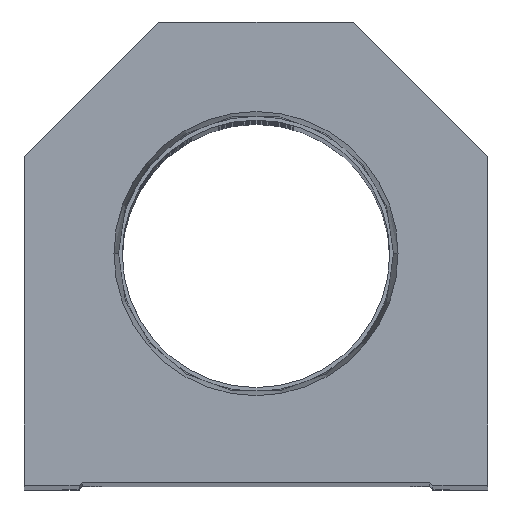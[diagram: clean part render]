
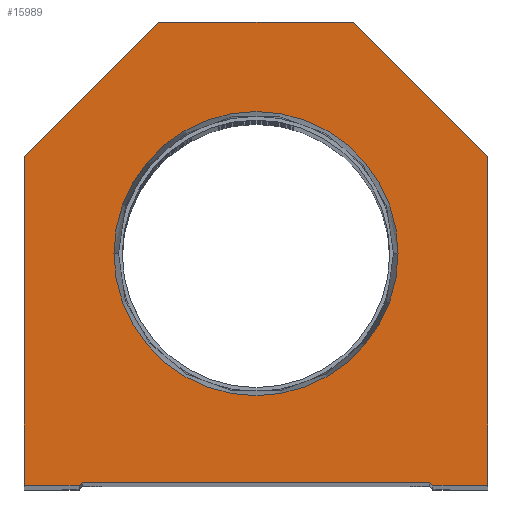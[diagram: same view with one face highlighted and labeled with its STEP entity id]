
A CAD part, top view. The second image highlights one B-rep face of the part: STEP entity #15989.
In plain terms, the highlighted planar face has unit normal (0, 0, 1).
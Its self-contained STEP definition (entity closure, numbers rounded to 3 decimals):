
#88 = EDGE_CURVE ( 'NONE', #16437, #2342, #13099, .T. ) ;
#244 = LINE ( 'NONE', #9971, #14769 ) ;
#366 = CARTESIAN_POINT ( 'NONE',  ( -23.374, 38.1, 0. ) ) ;
#378 = AXIS2_PLACEMENT_3D ( 'NONE', #7728, #14255, #14462 ) ;
#756 = DIRECTION ( 'NONE',  ( -1., 0., 0. ) ) ;
#809 = CARTESIAN_POINT ( 'NONE',  ( -28.6, 0., 0. ) ) ;
#1024 = DIRECTION ( 'NONE',  ( 1., 0., 0. ) ) ;
#1512 = CARTESIAN_POINT ( 'NONE',  ( 16., 76.2, 0. ) ) ;
#1669 = CARTESIAN_POINT ( 'NONE',  ( -38.1, 54.1, 0. ) ) ;
#1821 = ORIENTED_EDGE ( 'NONE', *, *, #18020, .F. ) ;
#1868 = EDGE_CURVE ( 'NONE', #3797, #20545, #12434, .T. ) ;
#1920 = VERTEX_POINT ( 'NONE', #1512 ) ;
#2342 = VERTEX_POINT ( 'NONE', #18665 ) ;
#2495 = VECTOR ( 'NONE', #756, 1000. ) ;
#2709 = DIRECTION ( 'NONE',  ( -0.707, 0.707, 0. ) ) ;
#2839 = VECTOR ( 'NONE', #20981, 1000. ) ;
#3064 = CARTESIAN_POINT ( 'NONE',  ( 0., 38.1, 0. ) ) ;
#3115 = FACE_OUTER_BOUND ( 'NONE', #13350, .T. ) ;
#3262 = EDGE_LOOP ( 'NONE', ( #9303, #1821 ) ) ;
#3559 = VECTOR ( 'NONE', #19797, 1000. ) ;
#3797 = VERTEX_POINT ( 'NONE', #7653 ) ;
#4383 = VECTOR ( 'NONE', #10370, 1000. ) ;
#4610 = VECTOR ( 'NONE', #1024, 1000. ) ;
#5192 = CARTESIAN_POINT ( 'NONE',  ( 0., 0., 0. ) ) ;
#5195 = DIRECTION ( 'NONE',  ( 0., 1., 0. ) ) ;
#5711 = LINE ( 'NONE', #12324, #2495 ) ;
#5868 = CARTESIAN_POINT ( 'NONE',  ( 23.374, 38.1, 0. ) ) ;
#5930 = DIRECTION ( 'NONE',  ( 0., 0., 1. ) ) ;
#6015 = CARTESIAN_POINT ( 'NONE',  ( 38.1, 54.1, 0. ) ) ;
#6359 = CIRCLE ( 'NONE', #378, 23.374 ) ;
#6616 = LINE ( 'NONE', #1669, #14793 ) ;
#6689 = AXIS2_PLACEMENT_3D ( 'NONE', #3064, #5930, #9464 ) ;
#6942 = DIRECTION ( 'NONE',  ( -0.707, -0.707, 0. ) ) ;
#6958 = CARTESIAN_POINT ( 'NONE',  ( 38.1, 0., 0. ) ) ;
#7070 = VERTEX_POINT ( 'NONE', #9006 ) ;
#7254 = EDGE_CURVE ( 'NONE', #2342, #10910, #20848, .T. ) ;
#7283 = CARTESIAN_POINT ( 'NONE',  ( -28.6, 0.5, 0. ) ) ;
#7545 = VERTEX_POINT ( 'NONE', #14644 ) ;
#7653 = CARTESIAN_POINT ( 'NONE',  ( -38.1, 54.1, 0. ) ) ;
#7728 = CARTESIAN_POINT ( 'NONE',  ( 0., 38.1, 0. ) ) ;
#7907 = ORIENTED_EDGE ( 'NONE', *, *, #7254, .T. ) ;
#8575 = EDGE_CURVE ( 'NONE', #12805, #1920, #14304, .T. ) ;
#8974 = EDGE_CURVE ( 'NONE', #7070, #3797, #6616, .T. ) ;
#8991 = ORIENTED_EDGE ( 'NONE', *, *, #88, .T. ) ;
#9006 = CARTESIAN_POINT ( 'NONE',  ( -16., 76.2, 0. ) ) ;
#9303 = ORIENTED_EDGE ( 'NONE', *, *, #19765, .F. ) ;
#9464 = DIRECTION ( 'NONE',  ( 1., 0., 0. ) ) ;
#9712 = EDGE_CURVE ( 'NONE', #14030, #7545, #16228, .T. ) ;
#9795 = CARTESIAN_POINT ( 'NONE',  ( 38.1, 54.1, 0. ) ) ;
#9848 = PLANE ( 'NONE',  #11483 ) ;
#9882 = EDGE_CURVE ( 'NONE', #1920, #7070, #5711, .T. ) ;
#9971 = CARTESIAN_POINT ( 'NONE',  ( 14.55, 14.55, 0. ) ) ;
#10018 = ORIENTED_EDGE ( 'NONE', *, *, #9712, .T. ) ;
#10370 = DIRECTION ( 'NONE',  ( 1., 0., 0. ) ) ;
#10374 = ORIENTED_EDGE ( 'NONE', *, *, #8974, .T. ) ;
#10602 = EDGE_CURVE ( 'NONE', #20545, #16437, #15914, .T. ) ;
#10780 = ORIENTED_EDGE ( 'NONE', *, *, #9882, .T. ) ;
#10910 = VERTEX_POINT ( 'NONE', #20012 ) ;
#10995 = CARTESIAN_POINT ( 'NONE',  ( -38.1, 0., 0. ) ) ;
#11440 = CARTESIAN_POINT ( 'NONE',  ( -38.1, 0., 0. ) ) ;
#11483 = AXIS2_PLACEMENT_3D ( 'NONE', #5192, #11929, #16984 ) ;
#11612 = VECTOR ( 'NONE', #5195, 1000. ) ;
#11716 = FACE_BOUND ( 'NONE', #3262, .T. ) ;
#11929 = DIRECTION ( 'NONE',  ( 0., 0., 1. ) ) ;
#12324 = CARTESIAN_POINT ( 'NONE',  ( 16., 76.2, 0. ) ) ;
#12434 = LINE ( 'NONE', #10995, #20470 ) ;
#12583 = ORIENTED_EDGE ( 'NONE', *, *, #10602, .T. ) ;
#12805 = VERTEX_POINT ( 'NONE', #9795 ) ;
#13099 = LINE ( 'NONE', #14517, #3559 ) ;
#13350 = EDGE_LOOP ( 'NONE', ( #12583, #8991, #7907, #18767, #10018, #14947, #19865, #10780, #10374, #20098 ) ) ;
#13382 = VECTOR ( 'NONE', #2709, 1000. ) ;
#13490 = DIRECTION ( 'NONE',  ( 0.707, -0.707, 0. ) ) ;
#14030 = VERTEX_POINT ( 'NONE', #16246 ) ;
#14255 = DIRECTION ( 'NONE',  ( 0., 0., 1. ) ) ;
#14304 = LINE ( 'NONE', #6015, #13382 ) ;
#14462 = DIRECTION ( 'NONE',  ( 1., 0., 0. ) ) ;
#14517 = CARTESIAN_POINT ( 'NONE',  ( -14.55, 14.55, 0. ) ) ;
#14644 = CARTESIAN_POINT ( 'NONE',  ( 38.1, 0., 0. ) ) ;
#14769 = VECTOR ( 'NONE', #13490, 1000. ) ;
#14793 = VECTOR ( 'NONE', #6942, 1000. ) ;
#14947 = ORIENTED_EDGE ( 'NONE', *, *, #17598, .T. ) ;
#15140 = CIRCLE ( 'NONE', #6689, 23.374 ) ;
#15767 = VERTEX_POINT ( 'NONE', #5868 ) ;
#15777 = VERTEX_POINT ( 'NONE', #366 ) ;
#15914 = LINE ( 'NONE', #809, #4610 ) ;
#15989 = ADVANCED_FACE ( 'NONE', ( #11716, #3115 ), #9848, .T. ) ;
#16228 = LINE ( 'NONE', #19311, #2839 ) ;
#16246 = CARTESIAN_POINT ( 'NONE',  ( 29.1, 0., 0. ) ) ;
#16437 = VERTEX_POINT ( 'NONE', #17010 ) ;
#16984 = DIRECTION ( 'NONE',  ( 1., 0., 0. ) ) ;
#16988 = LINE ( 'NONE', #6958, #11612 ) ;
#17010 = CARTESIAN_POINT ( 'NONE',  ( -29.1, 0., 0. ) ) ;
#17586 = EDGE_CURVE ( 'NONE', #10910, #14030, #244, .T. ) ;
#17598 = EDGE_CURVE ( 'NONE', #7545, #12805, #16988, .T. ) ;
#18020 = EDGE_CURVE ( 'NONE', #15777, #15767, #15140, .T. ) ;
#18665 = CARTESIAN_POINT ( 'NONE',  ( -28.6, 0.5, 0. ) ) ;
#18767 = ORIENTED_EDGE ( 'NONE', *, *, #17586, .T. ) ;
#19157 = DIRECTION ( 'NONE',  ( 0., -1., 0. ) ) ;
#19311 = CARTESIAN_POINT ( 'NONE',  ( 28.6, 0., 0. ) ) ;
#19765 = EDGE_CURVE ( 'NONE', #15767, #15777, #6359, .T. ) ;
#19797 = DIRECTION ( 'NONE',  ( 0.707, 0.707, 0. ) ) ;
#19865 = ORIENTED_EDGE ( 'NONE', *, *, #8575, .T. ) ;
#20012 = CARTESIAN_POINT ( 'NONE',  ( 28.6, 0.5, 0. ) ) ;
#20098 = ORIENTED_EDGE ( 'NONE', *, *, #1868, .T. ) ;
#20470 = VECTOR ( 'NONE', #19157, 1000. ) ;
#20545 = VERTEX_POINT ( 'NONE', #11440 ) ;
#20848 = LINE ( 'NONE', #7283, #4383 ) ;
#20981 = DIRECTION ( 'NONE',  ( 1., 0., 0. ) ) ;
